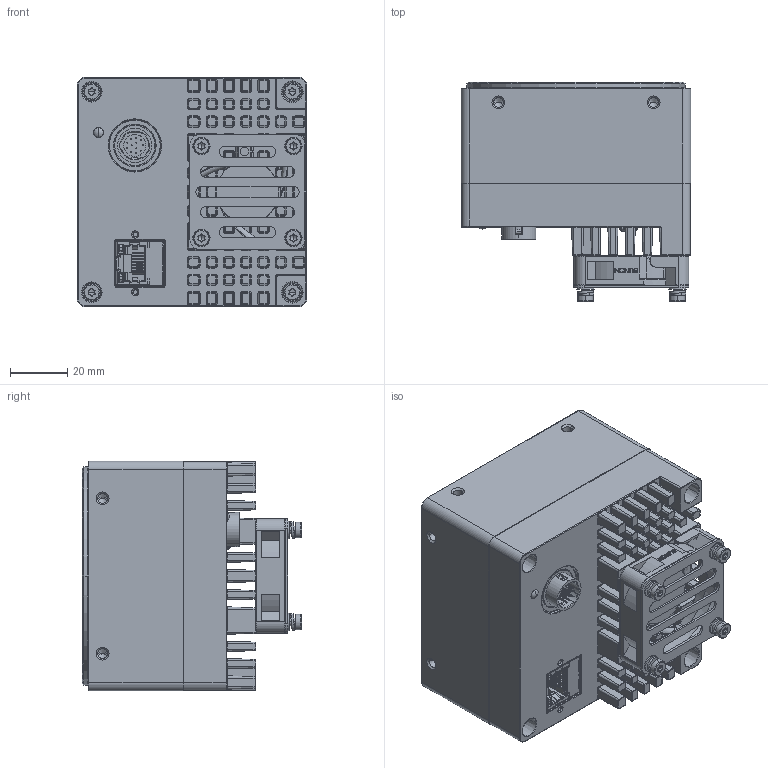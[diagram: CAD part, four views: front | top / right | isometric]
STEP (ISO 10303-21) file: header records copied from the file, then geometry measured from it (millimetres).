
FILE_DESCRIPTION((''),'2;1');
FILE_NAME('8K-____SW0001-1','2024-03-22T14:54:37',('303992'),(''),'CREO PARAMETRIC BY PTC INC, 2020184','CREO PARAMETRIC BY PTC INC, 2020184','');
FILE_SCHEMA(('CONFIG_CONTROL_DESIGN','SHAPE_APPEARANCE_LAYERS_GROUPS'));
Products named in the file (1): 8K-____SW0001-1
Bounding box: 80 x 76.25 x 80 mm (x, y, z)
Volume: 303334.5 mm3; surface area: 61247.9 mm2
Topology: 5 solids, 5 shells, 4106 faces, 10145 edges, 6116 vertices
Faces by surface type: plane 1503, cylinder 1179, torus 749, cone 520, bspline 147, sphere 8
Entity records: 199728 total; most frequent: CARTESIAN_POINT 40876, DIRECTION 21703, ORIENTED_EDGE 20194, PRESENTATION_STYLE_ASSIGNMENT 14208, STYLED_ITEM 10102, CURVE_STYLE 10097, EDGE_CURVE 10097, AXIS2_PLACEMENT_3D 8100
